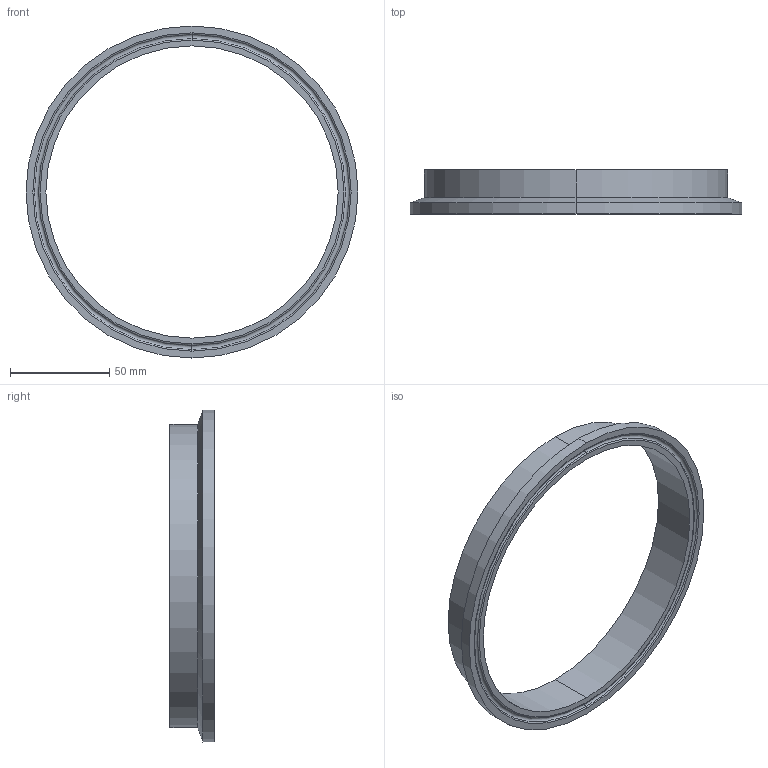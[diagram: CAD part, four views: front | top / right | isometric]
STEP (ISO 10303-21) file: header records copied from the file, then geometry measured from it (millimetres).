
FILE_DESCRIPTION (( 'STEP AP203' ), '1' );
FILE_NAME ('EG2CS6.0.STEP', '2018-04-30T13:57:13', ( 'vneprd' ), ( 'Microsoft' ), 'SwSTEP 2.0', 'SolidWorks 2014', '' );
FILE_SCHEMA (( 'CONFIG_CONTROL_DESIGN' ));
Length unit declared in the file: inch
Products named in the file (1): EG2CS6.0
Bounding box: 166.88 x 22.23 x 166.88 mm (x, y, z)
Volume: 52760.1 mm3; surface area: 30460.5 mm2
Topology: 1 solids, 1 shells, 17 faces, 34 edges, 20 vertices
Faces by surface type: cylinder 6, torus 6, plane 3, cone 2
Entity records: 533 total; most frequent: DIRECTION 96, CARTESIAN_POINT 72, ORIENTED_EDGE 68, AXIS2_PLACEMENT_3D 44, EDGE_CURVE 34, CIRCLE 26, EDGE_LOOP 20, VERTEX_POINT 20
